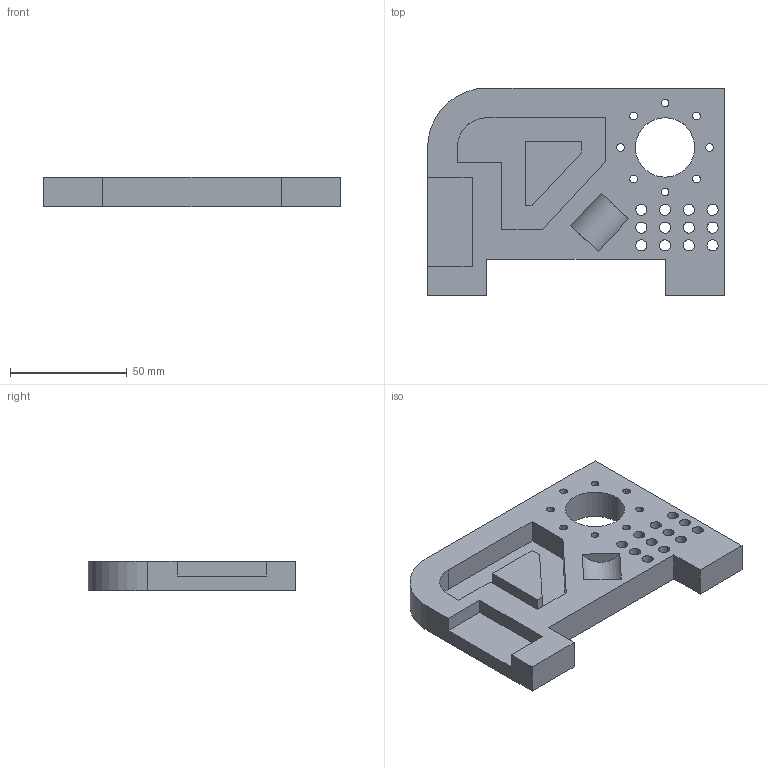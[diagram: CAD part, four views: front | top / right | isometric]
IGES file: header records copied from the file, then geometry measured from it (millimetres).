
Start section: START RECORD GO HERE.
Global section: file name: C:\Documents and Settings\Administrator\Desktop\Temporary Directory\Tutorial Plate.igs; native system: IBM CATIA IGES - CATIA Version 5 Release 9 ; preprocessor: CATIA Version 5 Release 9 ; organization: DASSAULT SYSTEMES; date: 20021127.144905; units: inch
Bounding box: 127 x 88.9 x 12.7 mm (x, y, z)
Surface area: 31316.9 mm2 (no closed solid volume)
Topology: 0 solids, 0 shells, 75 faces, 420 edges, 420 vertices
Faces by surface type: revolution 45, plane 30
